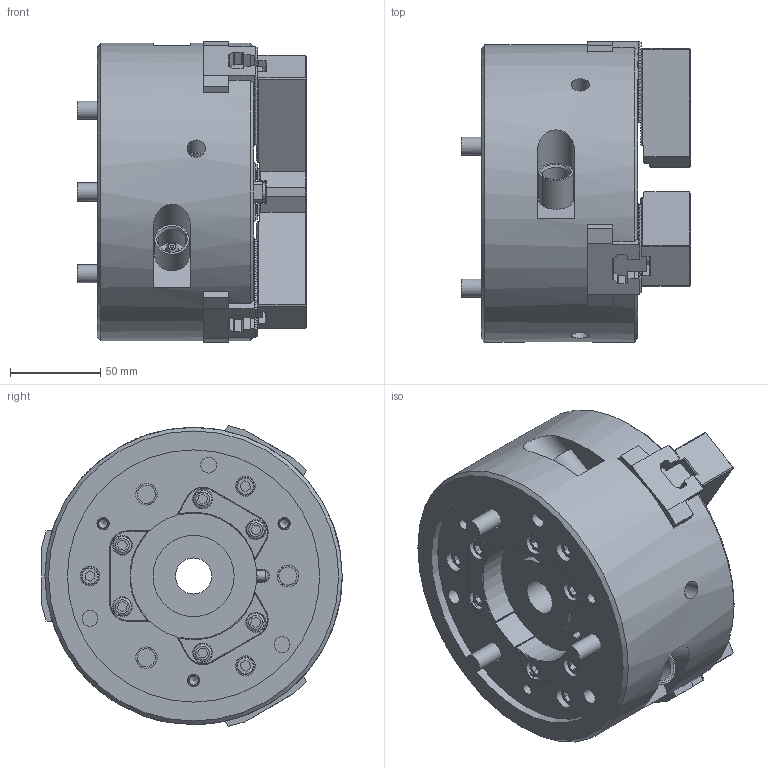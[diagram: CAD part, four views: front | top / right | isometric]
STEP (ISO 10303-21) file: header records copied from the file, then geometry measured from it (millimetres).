
FILE_DESCRIPTION (( 'STEP AP214' ), '1' );
FILE_NAME ('BL-206_61P264443-3_UC.STEP', '2020-03-24T01:20:50', ( '' ), ( '' ), 'SwSTEP 2.0', 'SolidWorks 2017', '' );
FILE_SCHEMA (( 'AUTOMOTIVE_DESIGN' ));
Length unit declared in the file: millimetre
Products named in the file (18): B傾僫僣僉 M10亊250_~25; 61P319805-3_ソフトジョー_W_‡_[; BL-206_61P264443-3_UC; 61P319805-3_ソフトジョー_W_‡_[_ﾃﾞﾌｫﾙﾄ_ATI≪UA; 61P447483-2_俿僫僢僩_b_g; 61P447483-2_俿僫僢僩_b_g_棉太倌I佱UA; Part4^61P264443-3_クミタテ_^_e; Part4^61P264443-3_僋儈僞僥_^_e_棉太倌I佱UA; B傾僫僣僉 M10亊250_~25_棉太倌TI佱UA
Assembly tree (13 placements, depth 2):
  B傾僫僣僉 M10亊250_~25
  61P319805-3_ソフトジョー_W_‡_[
  BL-206_61P264443-3_UC
    61P319805-3_ソフトジョー_W_‡_[_ﾃﾞﾌｫﾙﾄ_ATI≪UA  x3
    61P447483-2_俿僫僢僩_b_g_棉太倌I佱UA  x3
    B傾僫僣僉 M10亊250_~25_棉太倌TI佱UA  x6
    Part4^61P264443-3_僋儈僞僥_^_e_棉太倌I佱UA
  61P447483-2_俿僫僢僩_b_g
  61P447483-2_俿僫僢僩_b_g
Bounding box: 127.2 x 166.76 x 166.87 mm (x, y, z)
Volume: 1759312.2 mm3; surface area: 200055.1 mm2
Topology: 13 solids, 43 shells, 3114 faces, 8556 edges, 5653 vertices
Faces by surface type: plane 2226, cylinder 673, bspline 98, cone 92, torus 18, sphere 7
Full cylindrical faces by diameter (mm): 1.9 x3, 5 x9, 5.6 x6, 6 x10, 6.6 x6, 8.5 x3, 8.8 x3, 9 x3, 10 x24, 11 x15, 12 x3, 15 x3, 16 x9, 17 x9, 19 x3, 20 x1, 28 x1, 30.6 x1, 38.5 x1, 45 x1, 140 x1, 165 x1
Entity records: 70628 total; most frequent: CARTESIAN_POINT 17502, ORIENTED_EDGE 11372, DIRECTION 9952, EDGE_CURVE 5686, VECTOR 4432, LINE 4432, VERTEX_POINT 3827, AXIS2_PLACEMENT_3D 2760
